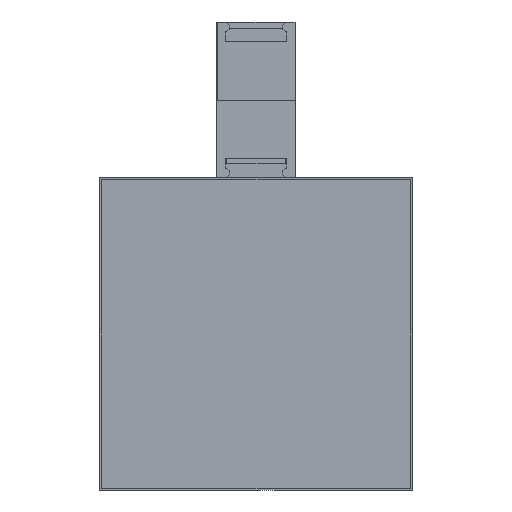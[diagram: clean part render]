
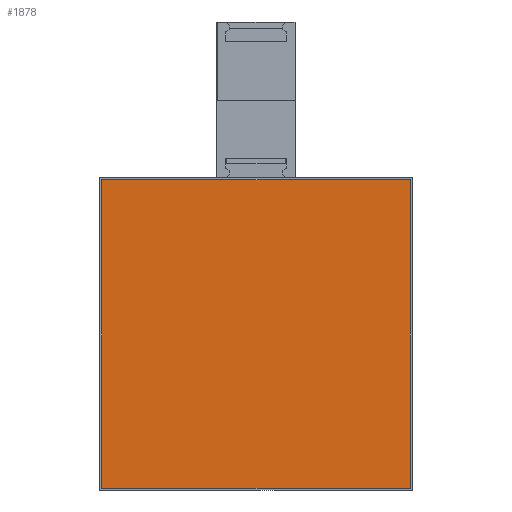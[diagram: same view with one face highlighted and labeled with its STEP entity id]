
A CAD part, front view. The second image highlights one B-rep face of the part: STEP entity #1878.
In plain terms, the highlighted planar face has unit normal (0, -1, 0).
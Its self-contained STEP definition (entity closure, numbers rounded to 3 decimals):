
#122 = DIRECTION ( 'NONE',  ( -1., 0., 0. ) ) ;
#186 = AXIS2_PLACEMENT_3D ( 'NONE', #401, #2336, #1043 ) ;
#195 = CARTESIAN_POINT ( 'NONE',  ( 39.5, -6., 39.5 ) ) ;
#217 = VECTOR ( 'NONE', #2622, 1000. ) ;
#224 = ORIENTED_EDGE ( 'NONE', *, *, #643, .F. ) ;
#301 = EDGE_CURVE ( 'NONE', #1497, #1645, #2411, .T. ) ;
#401 = CARTESIAN_POINT ( 'NONE',  ( 0., -6., 0. ) ) ;
#506 = LINE ( 'NONE', #195, #1646 ) ;
#521 = CARTESIAN_POINT ( 'NONE',  ( 39.5, -6., -39.5 ) ) ;
#643 = EDGE_CURVE ( 'NONE', #1176, #1497, #835, .T. ) ;
#675 = VECTOR ( 'NONE', #122, 1000. ) ;
#835 = LINE ( 'NONE', #2089, #1835 ) ;
#851 = ORIENTED_EDGE ( 'NONE', *, *, #2671, .F. ) ;
#891 = FACE_OUTER_BOUND ( 'NONE', #1876, .T. ) ;
#1016 = DIRECTION ( 'NONE',  ( 0., 0., 1. ) ) ;
#1043 = DIRECTION ( 'NONE',  ( 0., 0., 1. ) ) ;
#1067 = VERTEX_POINT ( 'NONE', #521 ) ;
#1176 = VERTEX_POINT ( 'NONE', #1270 ) ;
#1184 = CARTESIAN_POINT ( 'NONE',  ( 39.5, -6., -39.5 ) ) ;
#1257 = LINE ( 'NONE', #1184, #675 ) ;
#1270 = CARTESIAN_POINT ( 'NONE',  ( -39.5, -6., -39.5 ) ) ;
#1342 = CARTESIAN_POINT ( 'NONE',  ( 39.5, -6., 39.5 ) ) ;
#1497 = VERTEX_POINT ( 'NONE', #1990 ) ;
#1645 = VERTEX_POINT ( 'NONE', #1821 ) ;
#1646 = VECTOR ( 'NONE', #1903, 1000. ) ;
#1688 = PLANE ( 'NONE',  #186 ) ;
#1821 = CARTESIAN_POINT ( 'NONE',  ( 39.5, -6., 39.5 ) ) ;
#1835 = VECTOR ( 'NONE', #1016, 1000. ) ;
#1876 = EDGE_LOOP ( 'NONE', ( #2102, #851, #1939, #224 ) ) ;
#1878 = ADVANCED_FACE ( 'NONE', ( #891 ), #1688, .T. ) ;
#1903 = DIRECTION ( 'NONE',  ( 0., 0., -1. ) ) ;
#1939 = ORIENTED_EDGE ( 'NONE', *, *, #301, .F. ) ;
#1990 = CARTESIAN_POINT ( 'NONE',  ( -39.5, -6., 39.5 ) ) ;
#2089 = CARTESIAN_POINT ( 'NONE',  ( -39.5, -6., 39.5 ) ) ;
#2102 = ORIENTED_EDGE ( 'NONE', *, *, #2473, .F. ) ;
#2336 = DIRECTION ( 'NONE',  ( 0., -1., 0. ) ) ;
#2411 = LINE ( 'NONE', #1342, #217 ) ;
#2473 = EDGE_CURVE ( 'NONE', #1067, #1176, #1257, .T. ) ;
#2622 = DIRECTION ( 'NONE',  ( 1., 0., 0. ) ) ;
#2671 = EDGE_CURVE ( 'NONE', #1645, #1067, #506, .T. ) ;
